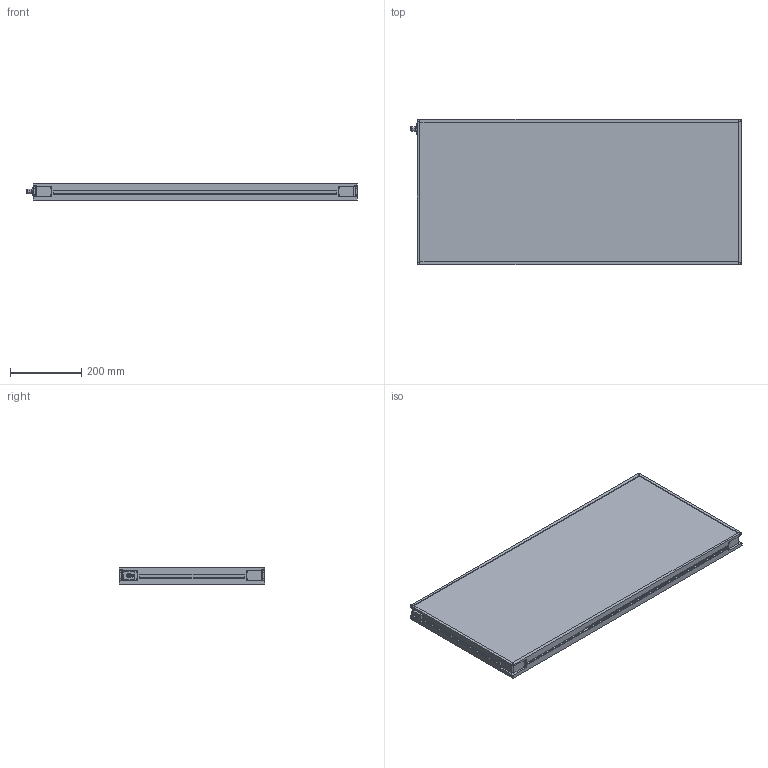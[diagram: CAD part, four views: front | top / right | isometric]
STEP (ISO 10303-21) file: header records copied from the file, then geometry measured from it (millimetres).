
FILE_DESCRIPTION (( 'STEP AP214' ), '1' );
FILE_NAME ('MBACK-xxxx-xxx-M1_CLIENT400x900.STEP', '2022-03-31T16:12:24', ( '' ), ( '' ), 'SwSTEP 2.0', 'SolidWorks 2020', '' );
FILE_SCHEMA (( 'AUTOMOTIVE_DESIGN' ));
Length unit declared in the file: millimetre
Products named in the file (1): MBACK-xxxx-xxx-M1_CLIENT400x900
Bounding box: 925.9 x 408 x 45.5 mm (x, y, z)
Volume: 15384207.7 mm3; surface area: 915601.5 mm2
Topology: 1 solids, 1 shells, 442 faces, 1144 edges, 760 vertices
Faces by surface type: plane 249, cylinder 105, bspline 80, cone 8
Entity records: 17236 total; most frequent: CARTESIAN_POINT 6699, ORIENTED_EDGE 2288, DIRECTION 1936, EDGE_CURVE 1144, VERTEX_POINT 760, VECTOR 758, LINE 758, AXIS2_PLACEMENT_3D 589
